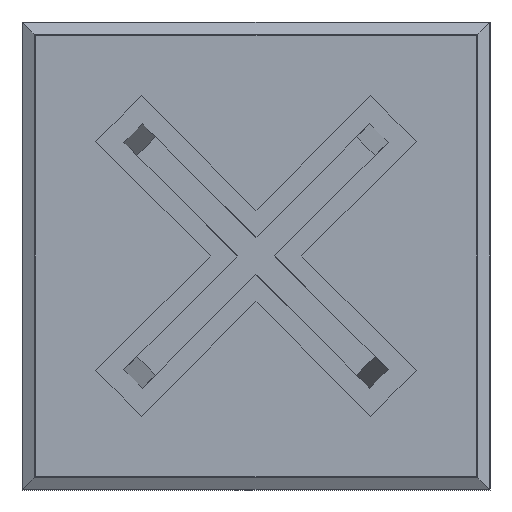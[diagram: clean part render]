
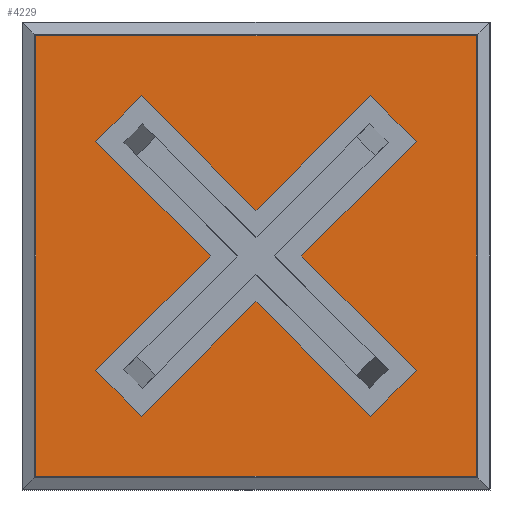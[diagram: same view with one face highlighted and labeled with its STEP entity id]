
A CAD part, front view. The second image highlights one B-rep face of the part: STEP entity #4229.
In plain terms, the highlighted planar face has unit normal (0, -1, 0).
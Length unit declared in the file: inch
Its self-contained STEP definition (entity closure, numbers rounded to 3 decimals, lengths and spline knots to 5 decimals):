
#286=FACE_BOUND('',#863,.T.);
#653=FACE_OUTER_BOUND('',#862,.T.);
#862=EDGE_LOOP('',(#3157,#3158,#3159,#3160));
#863=EDGE_LOOP('',(#3161,#3162,#3163,#3164,#3165,#3166,#3167,#3168,#3169,
#3170,#3171,#3172));
#1141=LINE('',#5986,#1637);
#1145=LINE('',#5994,#1641);
#1148=LINE('',#6000,#1644);
#1151=LINE('',#6006,#1647);
#1154=LINE('',#6012,#1650);
#1157=LINE('',#6018,#1653);
#1160=LINE('',#6024,#1656);
#1163=LINE('',#6030,#1659);
#1166=LINE('',#6036,#1662);
#1169=LINE('',#6042,#1665);
#1172=LINE('',#6048,#1668);
#1175=LINE('',#6053,#1671);
#1177=LINE('',#6059,#1673);
#1178=LINE('',#6061,#1674);
#1179=LINE('',#6063,#1675);
#1180=LINE('',#6064,#1676);
#1637=VECTOR('',#4965,0.3937);
#1641=VECTOR('',#4971,0.3937);
#1644=VECTOR('',#4976,0.3937);
#1647=VECTOR('',#4981,0.3937);
#1650=VECTOR('',#4986,0.3937);
#1653=VECTOR('',#4991,0.3937);
#1656=VECTOR('',#4996,0.3937);
#1659=VECTOR('',#5001,0.3937);
#1662=VECTOR('',#5006,0.3937);
#1665=VECTOR('',#5011,0.3937);
#1668=VECTOR('',#5016,0.3937);
#1671=VECTOR('',#5021,0.3937);
#1673=VECTOR('',#5027,0.3937);
#1674=VECTOR('',#5028,0.3937);
#1675=VECTOR('',#5029,0.3937);
#1676=VECTOR('',#5030,0.3937);
#2105=VERTEX_POINT('',#5984);
#2106=VERTEX_POINT('',#5985);
#2109=VERTEX_POINT('',#5993);
#2111=VERTEX_POINT('',#5999);
#2113=VERTEX_POINT('',#6005);
#2115=VERTEX_POINT('',#6011);
#2117=VERTEX_POINT('',#6017);
#2119=VERTEX_POINT('',#6023);
#2121=VERTEX_POINT('',#6029);
#2123=VERTEX_POINT('',#6035);
#2125=VERTEX_POINT('',#6041);
#2127=VERTEX_POINT('',#6047);
#2129=VERTEX_POINT('',#6057);
#2130=VERTEX_POINT('',#6058);
#2131=VERTEX_POINT('',#6060);
#2132=VERTEX_POINT('',#6062);
#2485=EDGE_CURVE('',#2105,#2106,#1141,.T.);
#2489=EDGE_CURVE('',#2109,#2105,#1145,.T.);
#2492=EDGE_CURVE('',#2111,#2109,#1148,.T.);
#2495=EDGE_CURVE('',#2113,#2111,#1151,.T.);
#2498=EDGE_CURVE('',#2115,#2113,#1154,.T.);
#2501=EDGE_CURVE('',#2117,#2115,#1157,.T.);
#2504=EDGE_CURVE('',#2119,#2117,#1160,.T.);
#2507=EDGE_CURVE('',#2121,#2119,#1163,.T.);
#2510=EDGE_CURVE('',#2123,#2121,#1166,.T.);
#2513=EDGE_CURVE('',#2125,#2123,#1169,.T.);
#2516=EDGE_CURVE('',#2127,#2125,#1172,.T.);
#2519=EDGE_CURVE('',#2106,#2127,#1175,.T.);
#2521=EDGE_CURVE('',#2129,#2130,#1177,.T.);
#2522=EDGE_CURVE('',#2130,#2131,#1178,.T.);
#2523=EDGE_CURVE('',#2131,#2132,#1179,.T.);
#2524=EDGE_CURVE('',#2132,#2129,#1180,.T.);
#3157=ORIENTED_EDGE('',*,*,#2521,.T.);
#3158=ORIENTED_EDGE('',*,*,#2522,.T.);
#3159=ORIENTED_EDGE('',*,*,#2523,.T.);
#3160=ORIENTED_EDGE('',*,*,#2524,.T.);
#3161=ORIENTED_EDGE('',*,*,#2485,.T.);
#3162=ORIENTED_EDGE('',*,*,#2519,.T.);
#3163=ORIENTED_EDGE('',*,*,#2516,.T.);
#3164=ORIENTED_EDGE('',*,*,#2513,.T.);
#3165=ORIENTED_EDGE('',*,*,#2510,.T.);
#3166=ORIENTED_EDGE('',*,*,#2507,.T.);
#3167=ORIENTED_EDGE('',*,*,#2504,.T.);
#3168=ORIENTED_EDGE('',*,*,#2501,.T.);
#3169=ORIENTED_EDGE('',*,*,#2498,.T.);
#3170=ORIENTED_EDGE('',*,*,#2495,.T.);
#3171=ORIENTED_EDGE('',*,*,#2492,.T.);
#3172=ORIENTED_EDGE('',*,*,#2489,.T.);
#4036=PLANE('',#4598);
#4229=ADVANCED_FACE('',(#653,#286),#4036,.T.);
#4598=AXIS2_PLACEMENT_3D('',#6056,#5025,#5026);
#4965=DIRECTION('',(0.707,0.,-0.707));
#4971=DIRECTION('',(0.707,0.,0.707));
#4976=DIRECTION('',(-0.707,0.,0.707));
#4981=DIRECTION('',(0.707,0.,0.707));
#4986=DIRECTION('',(-0.707,0.,0.707));
#4991=DIRECTION('',(-0.707,0.,-0.707));
#4996=DIRECTION('',(-0.707,0.,0.707));
#5001=DIRECTION('',(-0.707,0.,-0.707));
#5006=DIRECTION('',(0.707,0.,-0.707));
#5011=DIRECTION('',(-0.707,0.,-0.707));
#5016=DIRECTION('',(0.707,0.,-0.707));
#5021=DIRECTION('',(0.707,0.,0.707));
#5025=DIRECTION('center_axis',(0.,-1.,0.));
#5026=DIRECTION('ref_axis',(0.,0.,-1.));
#5027=DIRECTION('',(0.,0.,1.));
#5028=DIRECTION('',(-1.,0.,0.));
#5029=DIRECTION('',(0.,0.,-1.));
#5030=DIRECTION('',(1.,0.,0.));
#5984=CARTESIAN_POINT('',(31.75736,-1.5,-28.92893));
#5985=CARTESIAN_POINT('',(36.,-1.5,-33.17157));
#5986=CARTESIAN_POINT('',(34.58579,-1.5,-31.75736));
#5993=CARTESIAN_POINT('',(28.92893,-1.5,-31.75736));
#5994=CARTESIAN_POINT('',(29.63604,-1.5,-31.05025));
#5999=CARTESIAN_POINT('',(33.17157,-1.5,-36.));
#6000=CARTESIAN_POINT('',(33.87868,-1.5,-36.70711));
#6005=CARTESIAN_POINT('',(28.92893,-1.5,-40.24264));
#6006=CARTESIAN_POINT('',(31.75736,-1.5,-37.41421));
#6011=CARTESIAN_POINT('',(31.75736,-1.5,-43.07107));
#6012=CARTESIAN_POINT('',(31.05025,-1.5,-42.36396));
#6017=CARTESIAN_POINT('',(36.,-1.5,-38.82843));
#6018=CARTESIAN_POINT('',(36.70711,-1.5,-38.12132));
#6023=CARTESIAN_POINT('',(40.24264,-1.5,-43.07107));
#6024=CARTESIAN_POINT('',(37.41421,-1.5,-40.24264));
#6029=CARTESIAN_POINT('',(43.07107,-1.5,-40.24264));
#6030=CARTESIAN_POINT('',(42.36396,-1.5,-40.94975));
#6035=CARTESIAN_POINT('',(38.82843,-1.5,-36.));
#6036=CARTESIAN_POINT('',(38.12132,-1.5,-35.29289));
#6041=CARTESIAN_POINT('',(43.07107,-1.5,-31.75736));
#6042=CARTESIAN_POINT('',(40.24264,-1.5,-34.58579));
#6047=CARTESIAN_POINT('',(40.24264,-1.5,-28.92893));
#6048=CARTESIAN_POINT('',(40.94975,-1.5,-29.63604));
#6053=CARTESIAN_POINT('',(35.29289,-1.5,-33.87868));
#6056=CARTESIAN_POINT('Origin',(36.,-1.5,-36.));
#6057=CARTESIAN_POINT('',(70.,-1.5,-70.));
#6058=CARTESIAN_POINT('',(70.,-1.5,-2.));
#6059=CARTESIAN_POINT('',(70.,-1.5,-70.));
#6060=CARTESIAN_POINT('',(2.,-1.5,-2.));
#6061=CARTESIAN_POINT('',(70.,-1.5,-2.));
#6062=CARTESIAN_POINT('',(2.,-1.5,-70.));
#6063=CARTESIAN_POINT('',(2.,-1.5,-2.));
#6064=CARTESIAN_POINT('',(2.,-1.5,-70.));
